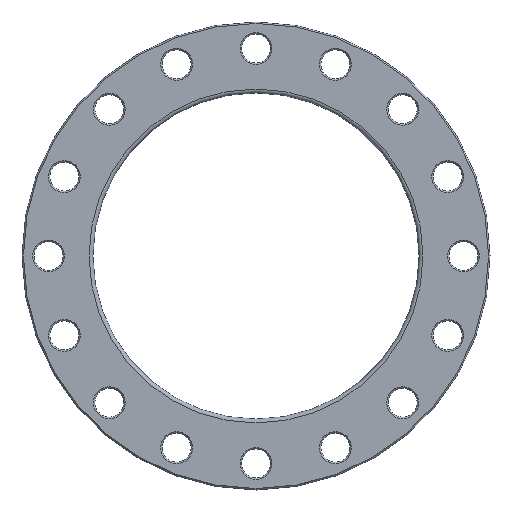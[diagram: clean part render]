
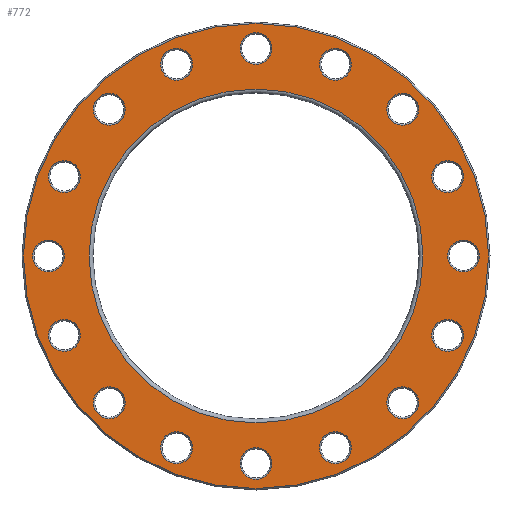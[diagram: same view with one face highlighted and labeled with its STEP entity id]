
A CAD part, front view. The second image highlights one B-rep face of the part: STEP entity #772.
In plain terms, the highlighted planar face has unit normal (0, -1, 0).
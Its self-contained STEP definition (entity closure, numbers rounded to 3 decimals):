
#23=PLANE('',#908);
#170=ORIENTED_EDGE('',*,*,#269,.T.);
#171=ORIENTED_EDGE('',*,*,#270,.T.);
#172=ORIENTED_EDGE('',*,*,#204,.T.);
#173=ORIENTED_EDGE('',*,*,#208,.T.);
#174=ORIENTED_EDGE('',*,*,#212,.T.);
#175=ORIENTED_EDGE('',*,*,#216,.T.);
#176=ORIENTED_EDGE('',*,*,#220,.T.);
#177=ORIENTED_EDGE('',*,*,#224,.T.);
#178=ORIENTED_EDGE('',*,*,#228,.T.);
#179=ORIENTED_EDGE('',*,*,#232,.T.);
#180=ORIENTED_EDGE('',*,*,#236,.T.);
#181=ORIENTED_EDGE('',*,*,#240,.T.);
#182=ORIENTED_EDGE('',*,*,#244,.T.);
#183=ORIENTED_EDGE('',*,*,#248,.T.);
#184=ORIENTED_EDGE('',*,*,#252,.T.);
#185=ORIENTED_EDGE('',*,*,#256,.T.);
#186=ORIENTED_EDGE('',*,*,#260,.T.);
#187=ORIENTED_EDGE('',*,*,#271,.T.);
#204=EDGE_CURVE('',#276,#276,#348,.T.);
#208=EDGE_CURVE('',#280,#280,#352,.T.);
#212=EDGE_CURVE('',#284,#284,#356,.T.);
#216=EDGE_CURVE('',#288,#288,#360,.T.);
#220=EDGE_CURVE('',#292,#292,#364,.T.);
#224=EDGE_CURVE('',#296,#296,#368,.T.);
#228=EDGE_CURVE('',#300,#300,#372,.T.);
#232=EDGE_CURVE('',#304,#304,#376,.T.);
#236=EDGE_CURVE('',#308,#308,#380,.T.);
#240=EDGE_CURVE('',#312,#312,#384,.T.);
#244=EDGE_CURVE('',#316,#316,#388,.T.);
#248=EDGE_CURVE('',#320,#320,#392,.T.);
#252=EDGE_CURVE('',#324,#324,#396,.T.);
#256=EDGE_CURVE('',#328,#328,#400,.T.);
#260=EDGE_CURVE('',#332,#332,#404,.T.);
#269=EDGE_CURVE('',#341,#341,#413,.F.);
#270=EDGE_CURVE('',#342,#342,#414,.T.);
#271=EDGE_CURVE('',#343,#343,#415,.T.);
#276=VERTEX_POINT('',#1187);
#280=VERTEX_POINT('',#1198);
#284=VERTEX_POINT('',#1209);
#288=VERTEX_POINT('',#1220);
#292=VERTEX_POINT('',#1231);
#296=VERTEX_POINT('',#1242);
#300=VERTEX_POINT('',#1253);
#304=VERTEX_POINT('',#1264);
#308=VERTEX_POINT('',#1275);
#312=VERTEX_POINT('',#1286);
#316=VERTEX_POINT('',#1297);
#320=VERTEX_POINT('',#1308);
#324=VERTEX_POINT('',#1319);
#328=VERTEX_POINT('',#1330);
#332=VERTEX_POINT('',#1341);
#341=VERTEX_POINT('',#1364);
#342=VERTEX_POINT('',#1366);
#343=VERTEX_POINT('',#1368);
#348=CIRCLE('',#797,16.5);
#352=CIRCLE('',#804,16.5);
#356=CIRCLE('',#811,16.5);
#360=CIRCLE('',#818,16.5);
#364=CIRCLE('',#825,16.5);
#368=CIRCLE('',#832,16.5);
#372=CIRCLE('',#839,16.5);
#376=CIRCLE('',#846,16.5);
#380=CIRCLE('',#853,16.5);
#384=CIRCLE('',#860,16.5);
#388=CIRCLE('',#867,16.5);
#392=CIRCLE('',#874,16.5);
#396=CIRCLE('',#881,16.5);
#400=CIRCLE('',#888,16.5);
#404=CIRCLE('',#895,16.5);
#413=CIRCLE('',#909,241.);
#414=CIRCLE('',#910,173.);
#415=CIRCLE('',#911,16.5);
#530=EDGE_LOOP('',(#170));
#531=EDGE_LOOP('',(#171));
#532=EDGE_LOOP('',(#172));
#533=EDGE_LOOP('',(#173));
#534=EDGE_LOOP('',(#174));
#535=EDGE_LOOP('',(#175));
#536=EDGE_LOOP('',(#176));
#537=EDGE_LOOP('',(#177));
#538=EDGE_LOOP('',(#178));
#539=EDGE_LOOP('',(#179));
#540=EDGE_LOOP('',(#180));
#541=EDGE_LOOP('',(#181));
#542=EDGE_LOOP('',(#182));
#543=EDGE_LOOP('',(#183));
#544=EDGE_LOOP('',(#184));
#545=EDGE_LOOP('',(#185));
#546=EDGE_LOOP('',(#186));
#547=EDGE_LOOP('',(#187));
#674=FACE_BOUND('',#530,.T.);
#675=FACE_BOUND('',#531,.T.);
#676=FACE_BOUND('',#532,.T.);
#677=FACE_BOUND('',#533,.T.);
#678=FACE_BOUND('',#534,.T.);
#679=FACE_BOUND('',#535,.T.);
#680=FACE_BOUND('',#536,.T.);
#681=FACE_BOUND('',#537,.T.);
#682=FACE_BOUND('',#538,.T.);
#683=FACE_BOUND('',#539,.T.);
#684=FACE_BOUND('',#540,.T.);
#685=FACE_BOUND('',#541,.T.);
#686=FACE_BOUND('',#542,.T.);
#687=FACE_BOUND('',#543,.T.);
#688=FACE_BOUND('',#544,.T.);
#689=FACE_BOUND('',#545,.T.);
#690=FACE_BOUND('',#546,.T.);
#691=FACE_BOUND('',#547,.T.);
#772=ADVANCED_FACE('',(#674,#675,#676,#677,#678,#679,#680,#681,#682,#683,
#684,#685,#686,#687,#688,#689,#690,#691),#23,.F.);
#797=AXIS2_PLACEMENT_3D('',#1186,#931,#932);
#804=AXIS2_PLACEMENT_3D('',#1197,#945,#946);
#811=AXIS2_PLACEMENT_3D('',#1208,#959,#960);
#818=AXIS2_PLACEMENT_3D('',#1219,#973,#974);
#825=AXIS2_PLACEMENT_3D('',#1230,#987,#988);
#832=AXIS2_PLACEMENT_3D('',#1241,#1001,#1002);
#839=AXIS2_PLACEMENT_3D('',#1252,#1015,#1016);
#846=AXIS2_PLACEMENT_3D('',#1263,#1029,#1030);
#853=AXIS2_PLACEMENT_3D('',#1274,#1043,#1044);
#860=AXIS2_PLACEMENT_3D('',#1285,#1057,#1058);
#867=AXIS2_PLACEMENT_3D('',#1296,#1071,#1072);
#874=AXIS2_PLACEMENT_3D('',#1307,#1085,#1086);
#881=AXIS2_PLACEMENT_3D('',#1318,#1099,#1100);
#888=AXIS2_PLACEMENT_3D('',#1329,#1113,#1114);
#895=AXIS2_PLACEMENT_3D('',#1340,#1127,#1128);
#908=AXIS2_PLACEMENT_3D('',#1362,#1153,#1154);
#909=AXIS2_PLACEMENT_3D('',#1363,#1155,#1156);
#910=AXIS2_PLACEMENT_3D('',#1365,#1157,#1158);
#911=AXIS2_PLACEMENT_3D('',#1367,#1159,#1160);
#931=DIRECTION('',(0.,1.,0.));
#932=DIRECTION('',(0.924,0.,0.383));
#945=DIRECTION('',(0.,1.,0.));
#946=DIRECTION('',(0.707,0.,0.707));
#959=DIRECTION('',(0.,1.,0.));
#960=DIRECTION('',(0.383,0.,0.924));
#973=DIRECTION('',(0.,1.,0.));
#974=DIRECTION('',(0.,0.,1.));
#987=DIRECTION('',(0.,1.,0.));
#988=DIRECTION('',(-0.383,0.,0.924));
#1001=DIRECTION('',(0.,1.,0.));
#1002=DIRECTION('',(-0.707,0.,0.707));
#1015=DIRECTION('',(0.,1.,0.));
#1016=DIRECTION('',(-0.924,0.,0.383));
#1029=DIRECTION('',(0.,1.,0.));
#1030=DIRECTION('',(-1.,0.,0.));
#1043=DIRECTION('',(0.,1.,0.));
#1044=DIRECTION('',(-0.924,0.,-0.383));
#1057=DIRECTION('',(0.,1.,0.));
#1058=DIRECTION('',(-0.707,0.,-0.707));
#1071=DIRECTION('',(0.,1.,0.));
#1072=DIRECTION('',(-0.383,0.,-0.924));
#1085=DIRECTION('',(0.,1.,0.));
#1086=DIRECTION('',(0.,0.,-1.));
#1099=DIRECTION('',(0.,1.,0.));
#1100=DIRECTION('',(0.383,0.,-0.924));
#1113=DIRECTION('',(0.,1.,0.));
#1114=DIRECTION('',(0.707,0.,-0.707));
#1127=DIRECTION('',(0.,1.,0.));
#1128=DIRECTION('',(0.924,0.,-0.383));
#1153=DIRECTION('',(0.,1.,0.));
#1154=DIRECTION('',(0.,0.,1.));
#1155=DIRECTION('',(0.,1.,0.));
#1156=DIRECTION('',(0.,0.,1.));
#1157=DIRECTION('',(0.,1.,0.));
#1158=DIRECTION('',(0.,0.,1.));
#1159=DIRECTION('',(0.,1.,0.));
#1160=DIRECTION('',(1.,0.,0.));
#1186=CARTESIAN_POINT('',(-82.277,0.,198.634));
#1187=CARTESIAN_POINT('',(-67.033,0.,204.948));
#1197=CARTESIAN_POINT('',(-152.028,0.,152.028));
#1198=CARTESIAN_POINT('',(-140.361,0.,163.695));
#1208=CARTESIAN_POINT('',(-198.634,0.,82.277));
#1209=CARTESIAN_POINT('',(-192.32,0.,97.521));
#1219=CARTESIAN_POINT('',(-215.,0.,0.));
#1220=CARTESIAN_POINT('',(-215.,0.,16.5));
#1230=CARTESIAN_POINT('',(-198.634,0.,-82.277));
#1231=CARTESIAN_POINT('',(-204.948,0.,-67.033));
#1241=CARTESIAN_POINT('',(-152.028,0.,-152.028));
#1242=CARTESIAN_POINT('',(-163.695,0.,-140.361));
#1252=CARTESIAN_POINT('',(-82.277,0.,-198.634));
#1253=CARTESIAN_POINT('',(-97.521,0.,-192.32));
#1263=CARTESIAN_POINT('',(0.,0.,-215.));
#1264=CARTESIAN_POINT('',(-16.5,0.,-215.));
#1274=CARTESIAN_POINT('',(82.277,0.,-198.634));
#1275=CARTESIAN_POINT('',(67.033,0.,-204.948));
#1285=CARTESIAN_POINT('',(152.028,0.,-152.028));
#1286=CARTESIAN_POINT('',(140.361,0.,-163.695));
#1296=CARTESIAN_POINT('',(198.634,0.,-82.277));
#1297=CARTESIAN_POINT('',(192.32,0.,-97.521));
#1307=CARTESIAN_POINT('',(215.,0.,0.));
#1308=CARTESIAN_POINT('',(215.,0.,-16.5));
#1318=CARTESIAN_POINT('',(198.634,0.,82.277));
#1319=CARTESIAN_POINT('',(204.948,0.,67.033));
#1329=CARTESIAN_POINT('',(152.028,0.,152.028));
#1330=CARTESIAN_POINT('',(163.695,0.,140.361));
#1340=CARTESIAN_POINT('',(82.277,0.,198.634));
#1341=CARTESIAN_POINT('',(97.521,0.,192.32));
#1362=CARTESIAN_POINT('',(0.,0.,0.));
#1363=CARTESIAN_POINT('',(0.,0.,0.));
#1364=CARTESIAN_POINT('',(0.,0.,241.));
#1365=CARTESIAN_POINT('',(0.,0.,0.));
#1366=CARTESIAN_POINT('',(0.,0.,173.));
#1367=CARTESIAN_POINT('',(0.,0.,215.));
#1368=CARTESIAN_POINT('',(16.5,0.,215.));
